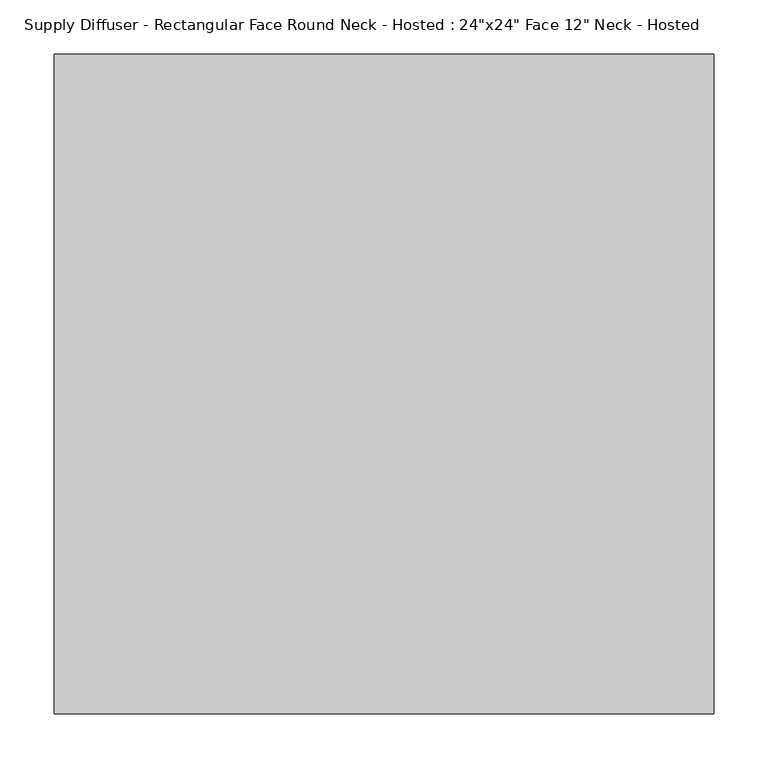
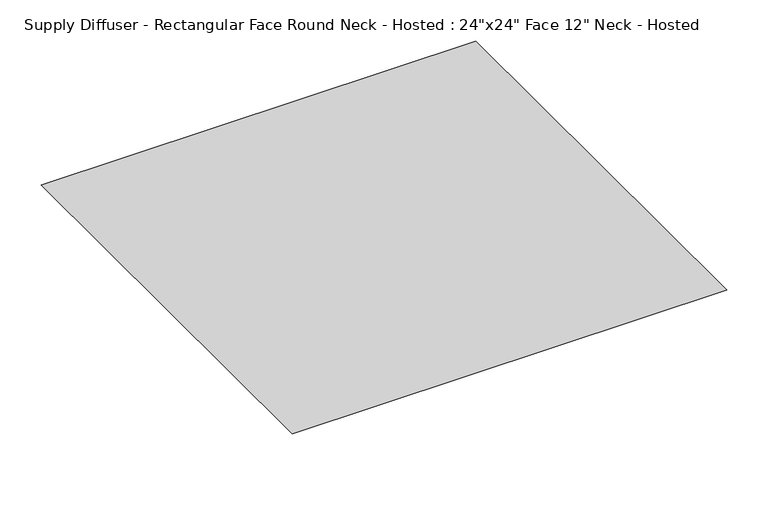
"""IFC4 building model written with IfcOpenShell, lengths in millimetres: air terminal geometry."""

from ifc_helpers import new_model, si_unit, frame, origin, place, context, project, spatial, circle_curve, source, transform, mapped, element, save
from ifc_brep_helpers import plane_surface, cylinder_surface, advanced_brep


def air_terminal_78ffba46(model_context):
    return source(origin(), model_context, "Body", "AdvancedBrep", [
        advanced_brep(
        [(152.4, 152.4, -28.575), (152.4, 0.0, -28.575), (0.0, 152.4, -28.575), (152.4, -152.4, -28.575), (0.0, -152.4, -28.575), (-152.4, -152.4, -28.575), (-152.4, 0.0, -28.575), (-152.4, 152.4, -28.575), (304.8, 304.8, 0.0), (-304.8, 304.8, 0.0), (-304.8, -304.8, 0.0), (304.8, -304.8, 0.0), (-152.4, 0.0, -53.975), (152.4, 0.0, -53.975)],
        [
            (0, 1),
            (1, 2, circle_curve(frame((0.0, 0.0, -28.575), z_axis=(0.0, 0.0, 1.0), x_axis=(1.0, 0.0, 0.0)), 152.4)),
            (2, 0),
            (1, 3),
            (3, 4),
            (4, 1, circle_curve(frame((0.0, 0.0, -28.575), z_axis=(0.0, 0.0, 1.0), x_axis=(1.0, 0.0, 0.0)), 152.4)),
            (4, 5),
            (5, 6),
            (6, 4, circle_curve(frame((0.0, 0.0, -28.575), z_axis=(0.0, 0.0, 1.0), x_axis=(1.0, 0.0, 0.0)), 152.4)),
            (6, 7),
            (7, 2),
            (2, 6, circle_curve(frame((0.0, 0.0, -28.575), z_axis=(0.0, 0.0, 1.0), x_axis=(1.0, 0.0, 0.0)), 152.4)),
            (8, 9),
            (9, 10),
            (10, 11),
            (11, 8),
            (11, 3),
            (0, 8),
            (10, 5),
            (9, 7),
            (12, 13, circle_curve(frame((0.0, 0.0, -53.975), z_axis=(0.0, 0.0, -1.0), x_axis=(1.0, 0.0, 0.0)), 152.4)),
            (13, 12, circle_curve(frame((0.0, 0.0, -53.975), z_axis=(0.0, 0.0, -1.0), x_axis=(1.0, 0.0, 0.0)), 152.4)),
            (13, 1),
            (6, 12),
        ],
        [
            plane_surface(frame((0.0, 0.0, -28.575), z_axis=(0.0, 0.0, -1.0), x_axis=(-1.0, 0.0, 0.0))),
            plane_surface(frame((0.0, 0.0, 0.0), z_axis=(0.0, 0.0, 1.0), x_axis=(-1.0, 0.0, 0.0))),
            plane_surface(frame((304.8, 0.0, 0.0), z_axis=(0.1842885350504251, 0.0, -0.982872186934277), x_axis=(0.0, -1.0, 0.0))),
            plane_surface(frame((0.0, -304.8, 0.0), z_axis=(0.0, -0.18428853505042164, -0.9828721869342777), x_axis=(-1.0, 0.0, 0.0))),
            plane_surface(frame((-304.8, 0.0, 0.0), z_axis=(-0.18428853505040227, 0.0, -0.9828721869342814), x_axis=(0.0, 1.0, 0.0))),
            plane_surface(frame((0.0, 304.8, 0.0), z_axis=(0.0, 0.18428853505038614, -0.9828721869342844), x_axis=(1.0, 0.0, 0.0))),
            plane_surface(frame((152.4, 0.0, -53.975), z_axis=(0.0, 0.0, -1.0), x_axis=(0.0, -1.0, 0.0))),
            cylinder_surface(frame((0.0, 0.0, -53.975), z_axis=(0.0, 0.0, 1.0), x_axis=(1.0, 0.0, 0.0)), 152.4),
        ],
        [
            (0, [[1, 2, 3]]),
            (0, [[4, 5, 6]]),
            (0, [[7, 8, 9]]),
            (0, [[10, 11, 12]]),
            (1, [[13, 14, 15, 16]]),
            (2, [[-16, 17, -4, -1, 18]]),
            (3, [[-15, 19, -7, -5, -17]]),
            (4, [[-14, 20, -10, -8, -19]]),
            (5, [[-13, -18, -3, -11, -20]]),
            (6, [[21, 22]]),
            (7, [[-22, 23, -6, -9, 24]]),
            (7, [[-21, -24, -12, -2, -23]]),
        ],
    ),
    ])


if __name__ == "__main__":
    model = new_model("IFC4")
    model_context = context("Model", 3, world=origin())
    ifc_project = project(units=[si_unit("LENGTHUNIT", "METRE", prefix="MILLI")], contexts=[model_context])
    site = spatial("IfcSite", under=ifc_project)
    building = spatial("IfcBuilding", under=site)
    placement = place(None, origin())
    air_terminal_shape = air_terminal_78ffba46(model_context)
    element("IfcAirTerminal", 1, ObjectType="Supply Diffuser - Rectangular Face Round Neck - Hosted : 24\"x24\" Face 12\" Neck - Hosted", at=placement, inside=building, context=model_context, shape_type="MappedRepresentation", body=[
        mapped(air_terminal_shape, transform((0.0, 0.0, 0.0), x_axis=(1.0, 0.0, 0.0), y_axis=(0.0, 1.0, 0.0), z_axis=(0.0, 0.0, 1.0))),
    ])
    save(model, "model.ifc")
